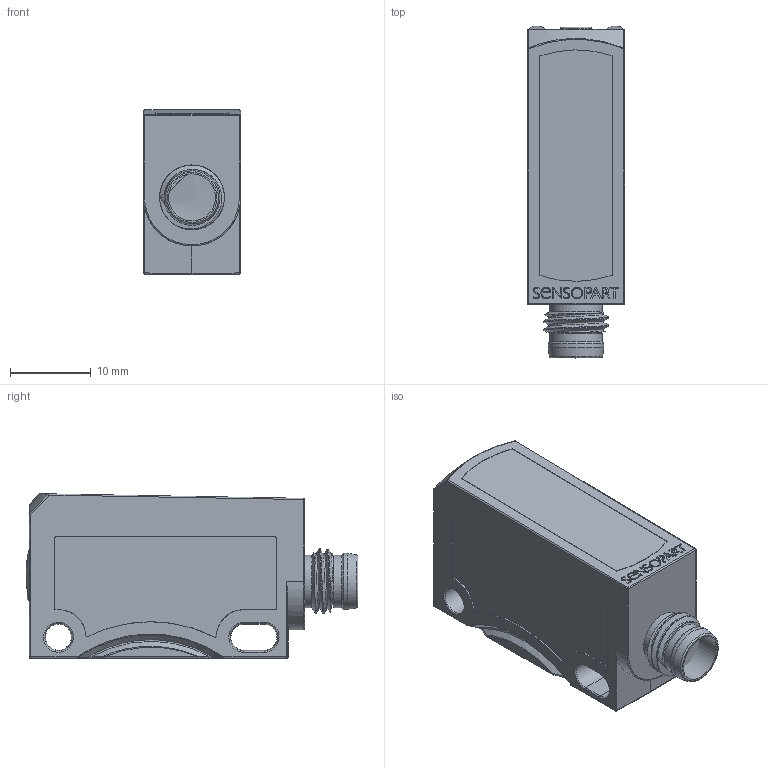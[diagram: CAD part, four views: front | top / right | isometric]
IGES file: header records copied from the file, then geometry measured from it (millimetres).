
Global section: file name: F 25 Stecker mit Teach-in; native system: Autodesk Inventor 2018; preprocessor: unknown; author: jh; date: 20201126.115634; units: millimetre
Bounding box: 12 x 41 x 20.33 mm (x, y, z)
Volume: 7772.5 mm3; surface area: 3173.6 mm2
Topology: 1 solids, 1 shells, 242 faces, 599 edges, 364 vertices
Faces by surface type: bspline 242
